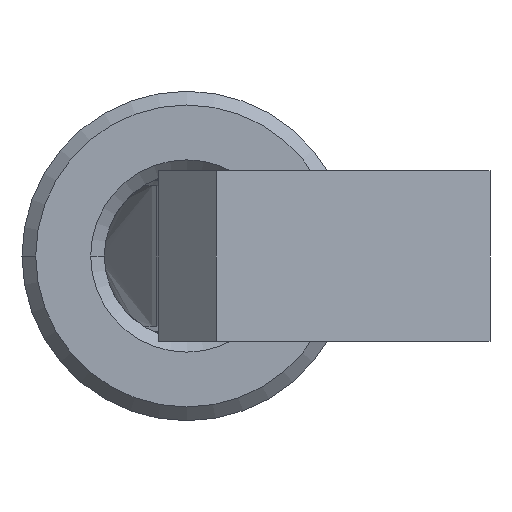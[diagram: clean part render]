
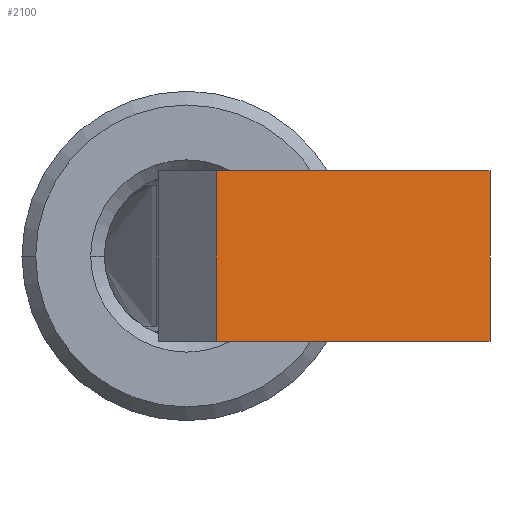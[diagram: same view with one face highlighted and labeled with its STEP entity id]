
A CAD part, left-side view. The second image highlights one B-rep face of the part: STEP entity #2100.
In plain terms, the highlighted planar face has unit normal (-0.998, -0.07, 0).
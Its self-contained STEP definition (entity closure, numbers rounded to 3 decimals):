
#89 = DIRECTION ( 'NONE',  ( -0.07, 0.998, 0. ) ) ;
#262 = EDGE_LOOP ( 'NONE', ( #1377, #418, #886, #917 ) ) ;
#295 = VERTEX_POINT ( 'NONE', #1477 ) ;
#307 = EDGE_CURVE ( 'NONE', #1802, #295, #1332, .T. ) ;
#418 = ORIENTED_EDGE ( 'NONE', *, *, #995, .T. ) ;
#420 = EDGE_CURVE ( 'NONE', #1550, #1802, #1009, .T. ) ;
#530 = VECTOR ( 'NONE', #793, 1000. ) ;
#793 = DIRECTION ( 'NONE',  ( 0., 0., 1. ) ) ;
#886 = ORIENTED_EDGE ( 'NONE', *, *, #1694, .T. ) ;
#917 = ORIENTED_EDGE ( 'NONE', *, *, #307, .F. ) ;
#978 = DIRECTION ( 'NONE',  ( 0., 0., 1. ) ) ;
#985 = AXIS2_PLACEMENT_3D ( 'NONE', #2444, #1673, #1406 ) ;
#995 = EDGE_CURVE ( 'NONE', #1550, #1143, #3073, .T. ) ;
#1009 = LINE ( 'NONE', #1094, #2278 ) ;
#1094 = CARTESIAN_POINT ( 'NONE',  ( -161.633, -185.083, -3.1 ) ) ;
#1143 = VERTEX_POINT ( 'NONE', #1199 ) ;
#1199 = CARTESIAN_POINT ( 'NONE',  ( -173.802, -11.046, 3.1 ) ) ;
#1205 = CARTESIAN_POINT ( 'NONE',  ( -174.5, -1.07, -15. ) ) ;
#1289 = CARTESIAN_POINT ( 'NONE',  ( -173.802, -11.046, -15. ) ) ;
#1332 = LINE ( 'NONE', #1205, #1537 ) ;
#1377 = ORIENTED_EDGE ( 'NONE', *, *, #420, .F. ) ;
#1406 = DIRECTION ( 'NONE',  ( 0.07, -0.998, 0. ) ) ;
#1477 = CARTESIAN_POINT ( 'NONE',  ( -174.5, -1.07, 3.1 ) ) ;
#1537 = VECTOR ( 'NONE', #978, 1000. ) ;
#1550 = VERTEX_POINT ( 'NONE', #1935 ) ;
#1673 = DIRECTION ( 'NONE',  ( -0.998, -0.07, 0. ) ) ;
#1694 = EDGE_CURVE ( 'NONE', #1143, #295, #2071, .T. ) ;
#1708 = VECTOR ( 'NONE', #89, 1000. ) ;
#1802 = VERTEX_POINT ( 'NONE', #2674 ) ;
#1935 = CARTESIAN_POINT ( 'NONE',  ( -173.802, -11.046, -3.1 ) ) ;
#2071 = LINE ( 'NONE', #2914, #1708 ) ;
#2089 = FACE_OUTER_BOUND ( 'NONE', #262, .T. ) ;
#2100 = ADVANCED_FACE ( 'NONE', ( #2089 ), #2954, .T. ) ;
#2278 = VECTOR ( 'NONE', #2378, 1000. ) ;
#2378 = DIRECTION ( 'NONE',  ( -0.07, 0.998, 0. ) ) ;
#2444 = CARTESIAN_POINT ( 'NONE',  ( -161.633, -185.083, -15. ) ) ;
#2674 = CARTESIAN_POINT ( 'NONE',  ( -174.5, -1.07, -3.1 ) ) ;
#2914 = CARTESIAN_POINT ( 'NONE',  ( -161.633, -185.083, 3.1 ) ) ;
#2954 = PLANE ( 'NONE',  #985 ) ;
#3073 = LINE ( 'NONE', #1289, #530 ) ;
